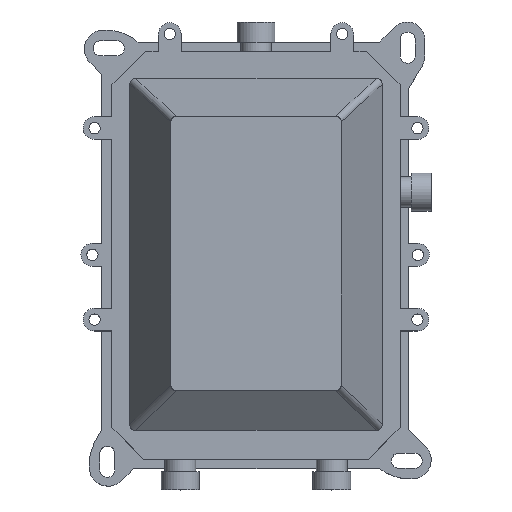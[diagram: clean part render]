
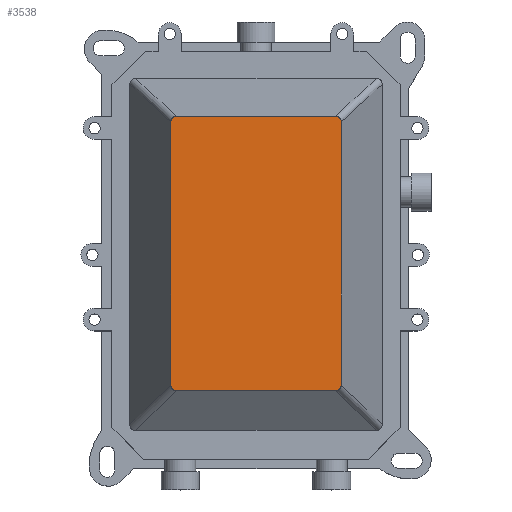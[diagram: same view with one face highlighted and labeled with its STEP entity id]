
A CAD part, top view. The second image highlights one B-rep face of the part: STEP entity #3538.
In plain terms, the highlighted planar face has unit normal (0, 0, 1).
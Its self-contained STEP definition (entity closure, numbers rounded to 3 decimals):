
#17 = CARTESIAN_POINT ( 'NONE',  ( 347.969, 447.029, 584.612 ) ) ;
#27 = CARTESIAN_POINT ( 'NONE',  ( 345.047, 304.244, 584.612 ) ) ;
#66 = CARTESIAN_POINT ( 'NONE',  ( 348.047, 446.638, 584.612 ) ) ;
#81 = DIRECTION ( 'NONE',  ( 0., -1., 0. ) ) ;
#104 = ORIENTED_EDGE ( 'NONE', *, *, #3673, .T. ) ;
#157 = CARTESIAN_POINT ( 'NONE',  ( 348.047, 307.244, 584.612 ) ) ;
#233 = B_SPLINE_CURVE_WITH_KNOTS ( 'NONE', 3,
 ( #2941, #3929, #412, #2243, #1596, #1094, #1669, #3047, #446, #1059 ),
 .UNSPECIFIED., .F., .F.,
 ( 4, 2, 2, 2, 4 ),
 ( 0., 0.25, 0.5, 0.75, 1. ),
 .UNSPECIFIED. ) ;
#345 = EDGE_CURVE ( 'NONE', #4269, #2164, #3872, .T. ) ;
#393 = CARTESIAN_POINT ( 'NONE',  ( 347.969, 306.459, 584.612 ) ) ;
#412 = CARTESIAN_POINT ( 'NONE',  ( 258.125, 306.46, 584.612 ) ) ;
#415 = CARTESIAN_POINT ( 'NONE',  ( 348.047, 306.85, 584.612 ) ) ;
#446 = CARTESIAN_POINT ( 'NONE',  ( 260.653, 304.244, 584.612 ) ) ;
#450 = CARTESIAN_POINT ( 'NONE',  ( 348.047, 307.244, 584.612 ) ) ;
#503 = CARTESIAN_POINT ( 'NONE',  ( 347.446, 448.087, 584.612 ) ) ;
#543 = CARTESIAN_POINT ( 'NONE',  ( 347.668, 447.756, 584.612 ) ) ;
#563 = CARTESIAN_POINT ( 'NONE',  ( 348.047, 446.244, 584.612 ) ) ;
#629 = VERTEX_POINT ( 'NONE', #3971 ) ;
#636 = VERTEX_POINT ( 'NONE', #2069 ) ;
#692 = CARTESIAN_POINT ( 'NONE',  ( 346.89, 448.644, 584.612 ) ) ;
#711 = DIRECTION ( 'NONE',  ( 0., 0., 1. ) ) ;
#822 = AXIS2_PLACEMENT_3D ( 'NONE', #4827, #711, #3906 ) ;
#885 = EDGE_CURVE ( 'NONE', #5598, #636, #931, .T. ) ;
#931 = B_SPLINE_CURVE_WITH_KNOTS ( 'NONE', 3,
 ( #27, #5565, #2427, #4515, #4270, #1514, #4076, #393, #415, #450 ),
 .UNSPECIFIED., .F., .F.,
 ( 4, 2, 2, 2, 4 ),
 ( 0., 0.25, 0.5, 0.75, 1. ),
 .UNSPECIFIED. ) ;
#977 = ORIENTED_EDGE ( 'NONE', *, *, #3463, .T. ) ;
#986 = CARTESIAN_POINT ( 'NONE',  ( 260.653, 449.244, 584.612 ) ) ;
#1018 = CARTESIAN_POINT ( 'NONE',  ( 261.047, 304.244, 584.612 ) ) ;
#1038 = VECTOR ( 'NONE', #5683, 1000. ) ;
#1059 = CARTESIAN_POINT ( 'NONE',  ( 261.047, 304.244, 584.612 ) ) ;
#1094 = CARTESIAN_POINT ( 'NONE',  ( 259.204, 304.845, 584.612 ) ) ;
#1171 = VERTEX_POINT ( 'NONE', #1018 ) ;
#1417 = EDGE_CURVE ( 'NONE', #2057, #1171, #233, .T. ) ;
#1442 = CARTESIAN_POINT ( 'NONE',  ( 259.536, 448.865, 584.612 ) ) ;
#1514 = CARTESIAN_POINT ( 'NONE',  ( 347.446, 305.401, 584.612 ) ) ;
#1596 = CARTESIAN_POINT ( 'NONE',  ( 258.648, 305.401, 584.612 ) ) ;
#1669 = CARTESIAN_POINT ( 'NONE',  ( 259.536, 304.623, 584.612 ) ) ;
#1903 = CARTESIAN_POINT ( 'NONE',  ( 258.648, 448.087, 584.612 ) ) ;
#2007 = CARTESIAN_POINT ( 'NONE',  ( 261.047, 304.244, 584.612 ) ) ;
#2057 = VERTEX_POINT ( 'NONE', #5121 ) ;
#2064 = PLANE ( 'NONE',  #822 ) ;
#2069 = CARTESIAN_POINT ( 'NONE',  ( 348.047, 307.244, 584.612 ) ) ;
#2164 = VERTEX_POINT ( 'NONE', #3595 ) ;
#2194 = CARTESIAN_POINT ( 'NONE',  ( 345.047, 449.244, 584.612 ) ) ;
#2243 = CARTESIAN_POINT ( 'NONE',  ( 258.426, 305.733, 584.612 ) ) ;
#2361 = CARTESIAN_POINT ( 'NONE',  ( 258.125, 447.029, 584.612 ) ) ;
#2427 = CARTESIAN_POINT ( 'NONE',  ( 345.832, 304.322, 584.612 ) ) ;
#2625 = CARTESIAN_POINT ( 'NONE',  ( 345.047, 304.244, 584.612 ) ) ;
#2694 = ORIENTED_EDGE ( 'NONE', *, *, #2750, .T. ) ;
#2750 = EDGE_CURVE ( 'NONE', #629, #4094, #3249, .T. ) ;
#2831 = CARTESIAN_POINT ( 'NONE',  ( 258.047, 446.244, 584.612 ) ) ;
#2938 = EDGE_CURVE ( 'NONE', #636, #4269, #4708, .T. ) ;
#2941 = CARTESIAN_POINT ( 'NONE',  ( 258.047, 307.244, 584.612 ) ) ;
#2942 = ORIENTED_EDGE ( 'NONE', *, *, #885, .T. ) ;
#3047 = CARTESIAN_POINT ( 'NONE',  ( 260.262, 304.322, 584.612 ) ) ;
#3249 = B_SPLINE_CURVE_WITH_KNOTS ( 'NONE', 3,
 ( #5108, #986, #4202, #1442, #4658, #1903, #5127, #2361, #5601, #2831 ),
 .UNSPECIFIED., .F., .F.,
 ( 4, 2, 2, 2, 4 ),
 ( 0., 0.25, 0.5, 0.75, 1. ),
 .UNSPECIFIED. ) ;
#3463 = EDGE_CURVE ( 'NONE', #1171, #5598, #4843, .T. ) ;
#3526 = ORIENTED_EDGE ( 'NONE', *, *, #5854, .T. ) ;
#3538 = ADVANCED_FACE ( 'NONE', ( #4399 ), #2064, .T. ) ;
#3595 = CARTESIAN_POINT ( 'NONE',  ( 345.047, 449.244, 584.612 ) ) ;
#3673 = EDGE_CURVE ( 'NONE', #2164, #629, #4612, .T. ) ;
#3776 = VECTOR ( 'NONE', #81, 1000. ) ;
#3872 = B_SPLINE_CURVE_WITH_KNOTS ( 'NONE', 3,
 ( #563, #66, #17, #543, #503, #692, #5054, #5038, #4748, #4731 ),
 .UNSPECIFIED., .F., .F.,
 ( 4, 2, 2, 2, 4 ),
 ( 0., 0.25, 0.5, 0.75, 1. ),
 .UNSPECIFIED. ) ;
#3906 = DIRECTION ( 'NONE',  ( -1., 0., 0. ) ) ;
#3929 = CARTESIAN_POINT ( 'NONE',  ( 258.047, 306.851, 584.612 ) ) ;
#3971 = CARTESIAN_POINT ( 'NONE',  ( 261.047, 449.244, 584.612 ) ) ;
#4016 = ORIENTED_EDGE ( 'NONE', *, *, #2938, .T. ) ;
#4076 = CARTESIAN_POINT ( 'NONE',  ( 347.668, 305.733, 584.612 ) ) ;
#4094 = VERTEX_POINT ( 'NONE', #5278 ) ;
#4184 = ORIENTED_EDGE ( 'NONE', *, *, #1417, .T. ) ;
#4192 = CARTESIAN_POINT ( 'NONE',  ( 348.047, 446.244, 584.612 ) ) ;
#4200 = CARTESIAN_POINT ( 'NONE',  ( 258.047, 446.244, 584.612 ) ) ;
#4202 = CARTESIAN_POINT ( 'NONE',  ( 260.262, 449.166, 584.612 ) ) ;
#4269 = VERTEX_POINT ( 'NONE', #4192 ) ;
#4270 = CARTESIAN_POINT ( 'NONE',  ( 346.89, 304.845, 584.612 ) ) ;
#4298 = ORIENTED_EDGE ( 'NONE', *, *, #345, .T. ) ;
#4399 = FACE_OUTER_BOUND ( 'NONE', #5074, .T. ) ;
#4515 = CARTESIAN_POINT ( 'NONE',  ( 346.558, 304.623, 584.612 ) ) ;
#4612 = LINE ( 'NONE', #2194, #5717 ) ;
#4658 = CARTESIAN_POINT ( 'NONE',  ( 259.204, 448.644, 584.612 ) ) ;
#4690 = VECTOR ( 'NONE', #5233, 1000. ) ;
#4708 = LINE ( 'NONE', #157, #1038 ) ;
#4731 = CARTESIAN_POINT ( 'NONE',  ( 345.047, 449.244, 584.612 ) ) ;
#4748 = CARTESIAN_POINT ( 'NONE',  ( 345.441, 449.244, 584.612 ) ) ;
#4827 = CARTESIAN_POINT ( 'NONE',  ( 303.047, 376.744, 584.612 ) ) ;
#4843 = LINE ( 'NONE', #2007, #4690 ) ;
#4965 = DIRECTION ( 'NONE',  ( -1., 0., 0. ) ) ;
#5014 = LINE ( 'NONE', #4200, #3776 ) ;
#5038 = CARTESIAN_POINT ( 'NONE',  ( 345.832, 449.166, 584.612 ) ) ;
#5054 = CARTESIAN_POINT ( 'NONE',  ( 346.558, 448.865, 584.612 ) ) ;
#5074 = EDGE_LOOP ( 'NONE', ( #2694, #3526, #4184, #977, #2942, #4016, #4298, #104 ) ) ;
#5108 = CARTESIAN_POINT ( 'NONE',  ( 261.047, 449.244, 584.612 ) ) ;
#5121 = CARTESIAN_POINT ( 'NONE',  ( 258.047, 307.244, 584.612 ) ) ;
#5127 = CARTESIAN_POINT ( 'NONE',  ( 258.426, 447.755, 584.612 ) ) ;
#5233 = DIRECTION ( 'NONE',  ( 1., 0., 0. ) ) ;
#5278 = CARTESIAN_POINT ( 'NONE',  ( 258.047, 446.244, 584.612 ) ) ;
#5565 = CARTESIAN_POINT ( 'NONE',  ( 345.441, 304.244, 584.612 ) ) ;
#5598 = VERTEX_POINT ( 'NONE', #2625 ) ;
#5601 = CARTESIAN_POINT ( 'NONE',  ( 258.047, 446.638, 584.612 ) ) ;
#5683 = DIRECTION ( 'NONE',  ( 0., 1., 0. ) ) ;
#5717 = VECTOR ( 'NONE', #4965, 1000. ) ;
#5854 = EDGE_CURVE ( 'NONE', #4094, #2057, #5014, .T. ) ;
